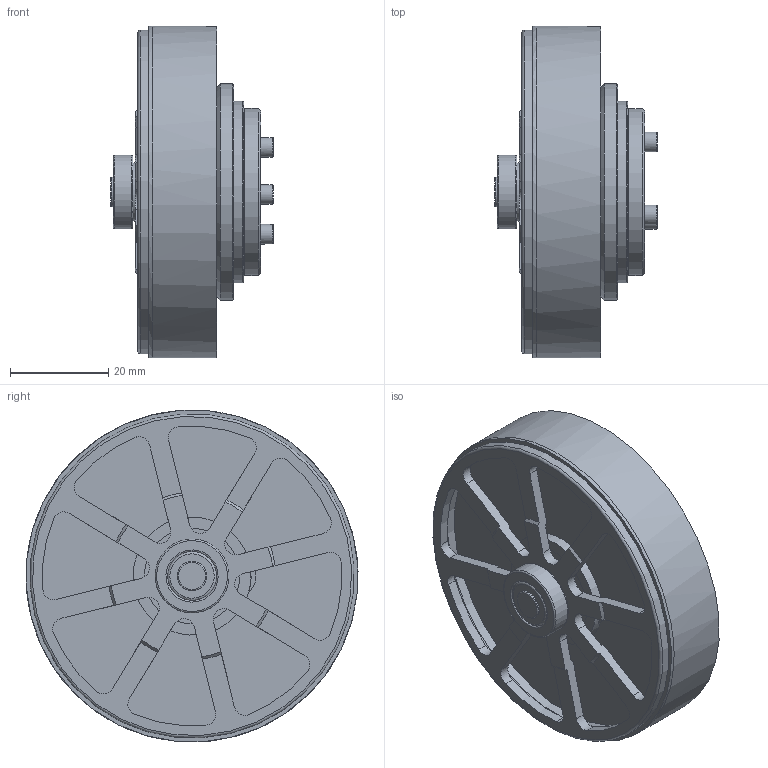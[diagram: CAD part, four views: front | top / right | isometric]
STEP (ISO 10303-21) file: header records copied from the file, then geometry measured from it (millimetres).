
FILE_DESCRIPTION(/* description */ (''),/* implementation_level */ '2;1');
FILE_NAME(/* name */ '',/* time_stamp */ '2025-05-26T15:07:40+08:00',/* author */ ('simmi'),/* organization */ (''),/* preprocessor_version */ 'ST-DEVELOPER v19.2',/* originating_system */ 'Autodesk Inventor 2024',/* authorisation */ '');
FILE_SCHEMA (('AUTOMOTIVE_DESIGN { 1 0 10303 214 3 1 1 }'));
Length unit declared in the file: millimetre
Products named in the file (1): 6010-8_简化_1
Bounding box: 33 x 67.49 x 67.45 mm (x, y, z)
Volume: 55704.3 mm3; surface area: 17761.5 mm2
Topology: 1 solids, 3 shells, 321 faces, 873 edges, 560 vertices
Faces by surface type: cylinder 104, plane 95, cone 56, bspline 48, torus 18
Full cylindrical faces by diameter (mm): 2.013 x8, 2.459 x6, 4 x3, 5 x1, 5.5 x3, 5.7 x3, 5.98 x1, 6 x1, 9 x1, 10 x2, 11 x1, 12 x1, 15 x2, 16 x1, 20 x1, 24 x1, 32 x1, 34 x1, 37 x1, 44 x1, 62.9 x1, 65.9 x1, 67.5 x2
Entity records: 11954 total; most frequent: CARTESIAN_POINT 3652, ORIENTED_EDGE 1740, DIRECTION 1591, EDGE_CURVE 870, AXIS2_PLACEMENT_3D 681, VERTEX_POINT 560, CIRCLE 407, EDGE_LOOP 374
